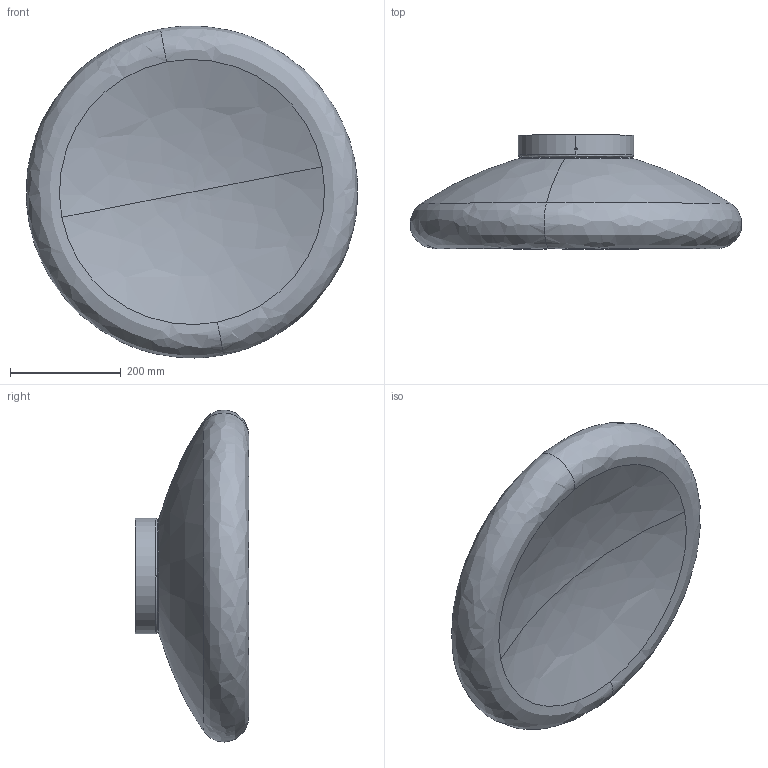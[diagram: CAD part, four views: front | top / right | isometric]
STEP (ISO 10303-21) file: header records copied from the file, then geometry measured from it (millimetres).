
FILE_DESCRIPTION (( 'STEP AP203' ), '1' );
FILE_NAME ('KEYRA_60P-PL_STEP.STEP', '2016-01-19T10:26:04', ( 'admin' ), ( '' ), 'SwSTEP 2.0', 'SolidWorks 2015', '' );
FILE_SCHEMA (( 'CONFIG_CONTROL_DESIGN' ));
Length unit declared in the file: millimetre
Products named in the file (2): KEYRA_60P-PL_STEP
Bounding box: 598.23 x 205.48 x 599.85 mm (x, y, z)
Volume: 5267647.7 mm3; surface area: 1458649.9 mm2
Topology: 3 solids, 3 shells, 110 faces, 312 edges, 202 vertices
Faces by surface type: cylinder 64, plane 26, bspline 20
Entity records: 4267 total; most frequent: CARTESIAN_POINT 1234, ORIENTED_EDGE 616, DIRECTION 596, EDGE_CURVE 308, AXIS2_PLACEMENT_3D 236, VERTEX_POINT 202, EDGE_LOOP 154, CIRCLE 144
